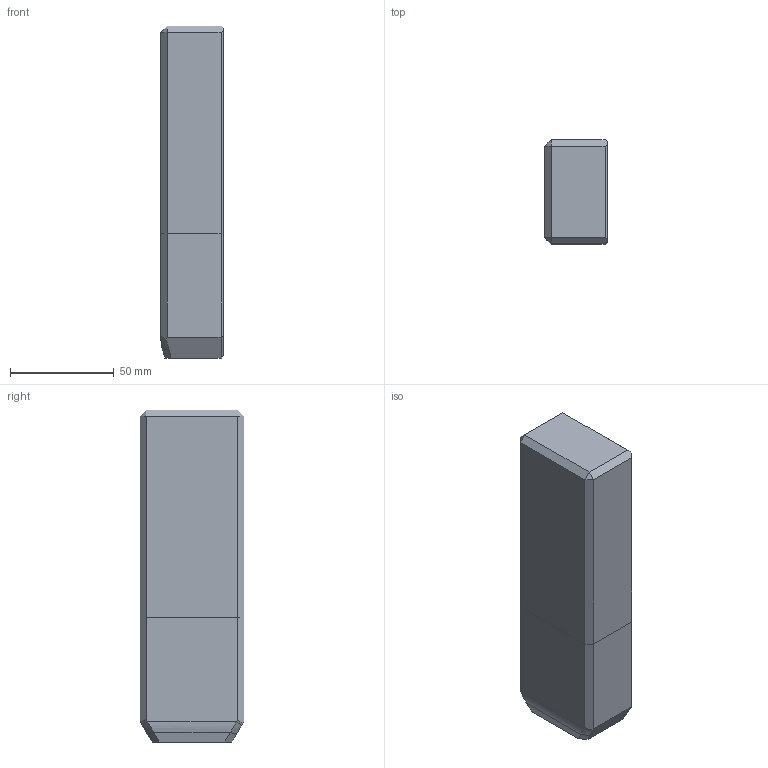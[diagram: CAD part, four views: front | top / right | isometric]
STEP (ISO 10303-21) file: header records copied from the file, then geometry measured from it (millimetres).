
FILE_DESCRIPTION((''),'2;1');
FILE_NAME('','2010-08-30T18:05:30+09:00',('misumi'),(''),'M/STEP i/f 1R2-14','CADmeister v5.1','');
FILE_SCHEMA(('AUTOMOTIVE_DESIGN'));
Length unit declared in the file: millimetre
Products named in the file (1): OGG50-160
Bounding box: 30 x 50 x 160 mm (x, y, z)
Volume: 235862.8 mm3; surface area: 27131.2 mm2
Topology: 1 solids, 1 shells, 33 faces, 76 edges, 45 vertices
Faces by surface type: plane 27, bspline 5, cylinder 1
Entity records: 1470 total; most frequent: CARTESIAN_POINT 692, ORIENTED_EDGE 152, DIRECTION 118, EDGE_CURVE 76, LINE 60, VECTOR 60, VERTEX_POINT 45, EDGE_LOOP 33
